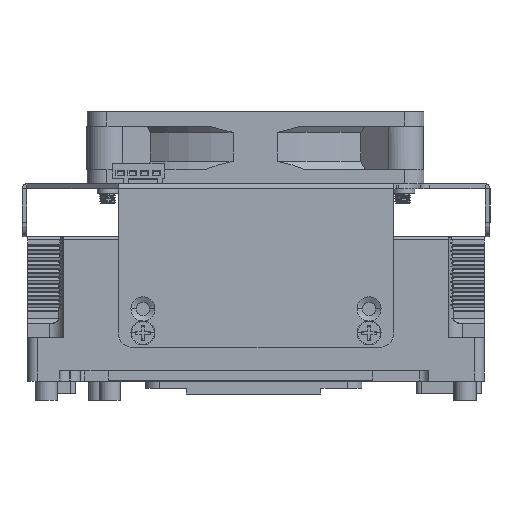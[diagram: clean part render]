
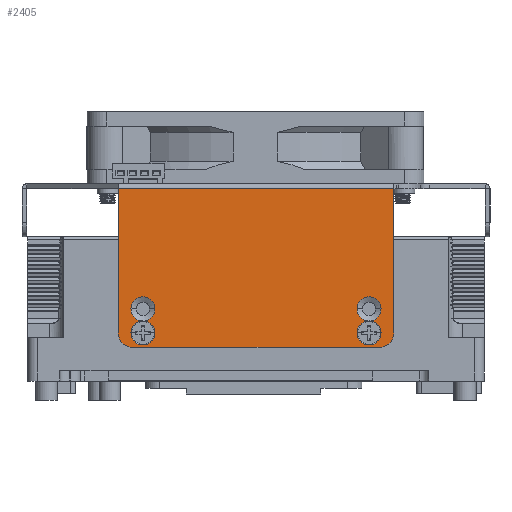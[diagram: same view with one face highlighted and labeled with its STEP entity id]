
A CAD part, front view. The second image highlights one B-rep face of the part: STEP entity #2405.
In plain terms, the highlighted planar face has unit normal (0, -1, 0) as drawn and (0, 0, 1) by its records, which use the part's own axes.
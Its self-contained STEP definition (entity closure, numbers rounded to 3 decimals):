
#394=DIRECTION('',(-1.,0.,0.));
#395=VECTOR('',#394,57.3);
#396=CARTESIAN_POINT('',(28.65,-1.,48.65));
#397=LINE('',#396,#395);
#423=CARTESIAN_POINT('',(25.65,-31.,48.65));
#424=DIRECTION('',(0.,0.,-1.));
#425=DIRECTION('',(1.,0.,0.));
#426=AXIS2_PLACEMENT_3D('',#423,#424,#425);
#428=DIRECTION('',(-1.,0.,0.));
#429=VECTOR('',#428,51.3);
#430=CARTESIAN_POINT('',(25.65,-34.,48.65));
#431=LINE('',#430,#429);
#432=CARTESIAN_POINT('',(-25.65,-31.,48.65));
#433=DIRECTION('',(0.,0.,-1.));
#434=DIRECTION('',(0.,-1.,0.));
#435=AXIS2_PLACEMENT_3D('',#432,#433,#434);
#437=DIRECTION('',(0.,-1.,0.));
#438=VECTOR('',#437,30.);
#439=CARTESIAN_POINT('',(28.65,-1.,48.65));
#440=LINE('',#439,#438);
#441=CARTESIAN_POINT('',(-23.5,-31.,48.65));
#442=DIRECTION('',(0.,0.,1.));
#443=DIRECTION('',(0.,1.,0.));
#444=AXIS2_PLACEMENT_3D('',#441,#442,#443);
#446=CARTESIAN_POINT('',(-23.5,-31.,48.65));
#447=DIRECTION('',(0.,0.,1.));
#448=DIRECTION('',(-1.,0.,0.));
#449=AXIS2_PLACEMENT_3D('',#446,#447,#448);
#451=CARTESIAN_POINT('',(-23.5,-31.,48.65));
#452=DIRECTION('',(0.,0.,1.));
#453=DIRECTION('',(0.,-1.,0.));
#454=AXIS2_PLACEMENT_3D('',#451,#452,#453);
#456=CARTESIAN_POINT('',(-23.5,-31.,48.65));
#457=DIRECTION('',(0.,0.,1.));
#458=DIRECTION('',(1.,0.,0.));
#459=AXIS2_PLACEMENT_3D('',#456,#457,#458);
#461=CARTESIAN_POINT('',(-23.5,-26.,48.65));
#462=DIRECTION('',(0.,0.,1.));
#463=DIRECTION('',(0.,-1.,0.));
#464=AXIS2_PLACEMENT_3D('',#461,#462,#463);
#466=CARTESIAN_POINT('',(-23.5,-26.,48.65));
#467=DIRECTION('',(0.,0.,1.));
#468=DIRECTION('',(1.,0.,0.));
#469=AXIS2_PLACEMENT_3D('',#466,#467,#468);
#471=CARTESIAN_POINT('',(-23.5,-26.,48.65));
#472=DIRECTION('',(0.,0.,1.));
#473=DIRECTION('',(0.,1.,0.));
#474=AXIS2_PLACEMENT_3D('',#471,#472,#473);
#476=CARTESIAN_POINT('',(-23.5,-26.,48.65));
#477=DIRECTION('',(0.,0.,1.));
#478=DIRECTION('',(-1.,0.,0.));
#479=AXIS2_PLACEMENT_3D('',#476,#477,#478);
#481=CARTESIAN_POINT('',(23.5,-31.,48.65));
#482=DIRECTION('',(0.,0.,1.));
#483=DIRECTION('',(0.,1.,0.));
#484=AXIS2_PLACEMENT_3D('',#481,#482,#483);
#486=CARTESIAN_POINT('',(23.5,-31.,48.65));
#487=DIRECTION('',(0.,0.,1.));
#488=DIRECTION('',(-1.,0.,0.));
#489=AXIS2_PLACEMENT_3D('',#486,#487,#488);
#491=CARTESIAN_POINT('',(23.5,-31.,48.65));
#492=DIRECTION('',(0.,0.,1.));
#493=DIRECTION('',(0.,-1.,0.));
#494=AXIS2_PLACEMENT_3D('',#491,#492,#493);
#496=CARTESIAN_POINT('',(23.5,-31.,48.65));
#497=DIRECTION('',(0.,0.,1.));
#498=DIRECTION('',(1.,0.,0.));
#499=AXIS2_PLACEMENT_3D('',#496,#497,#498);
#501=CARTESIAN_POINT('',(23.5,-26.,48.65));
#502=DIRECTION('',(0.,0.,1.));
#503=DIRECTION('',(0.,-1.,0.));
#504=AXIS2_PLACEMENT_3D('',#501,#502,#503);
#506=CARTESIAN_POINT('',(23.5,-26.,48.65));
#507=DIRECTION('',(0.,0.,1.));
#508=DIRECTION('',(1.,0.,0.));
#509=AXIS2_PLACEMENT_3D('',#506,#507,#508);
#511=CARTESIAN_POINT('',(23.5,-26.,48.65));
#512=DIRECTION('',(0.,0.,1.));
#513=DIRECTION('',(0.,1.,0.));
#514=AXIS2_PLACEMENT_3D('',#511,#512,#513);
#516=CARTESIAN_POINT('',(23.5,-26.,48.65));
#517=DIRECTION('',(0.,0.,1.));
#518=DIRECTION('',(-1.,0.,0.));
#519=AXIS2_PLACEMENT_3D('',#516,#517,#518);
#579=DIRECTION('',(0.,-1.,0.));
#580=VECTOR('',#579,30.);
#581=CARTESIAN_POINT('',(-28.65,-1.,48.65));
#582=LINE('',#581,#580);
#1681=CARTESIAN_POINT('',(-28.65,-1.,48.65));
#1682=VERTEX_POINT('',#1681);
#1683=CARTESIAN_POINT('',(28.65,-1.,48.65));
#1684=VERTEX_POINT('',#1683);
#1685=CARTESIAN_POINT('',(28.65,-31.,48.65));
#1687=VERTEX_POINT('',#1685);
#1689=CARTESIAN_POINT('',(25.65,-34.,48.65));
#1690=VERTEX_POINT('',#1689);
#1693=CARTESIAN_POINT('',(-25.65,-34.,48.65));
#1694=VERTEX_POINT('',#1693);
#1695=CARTESIAN_POINT('',(-28.65,-31.,48.65));
#1696=VERTEX_POINT('',#1695);
#1697=CARTESIAN_POINT('',(-23.5,-28.5,48.65));
#1698=CARTESIAN_POINT('',(-26.,-31.,48.65));
#1699=VERTEX_POINT('',#1697);
#1700=VERTEX_POINT('',#1698);
#1701=CARTESIAN_POINT('',(-23.5,-33.5,48.65));
#1702=VERTEX_POINT('',#1701);
#1703=CARTESIAN_POINT('',(-21.,-31.,48.65));
#1704=VERTEX_POINT('',#1703);
#1705=CARTESIAN_POINT('',(-21.,-26.,48.65));
#1706=VERTEX_POINT('',#1705);
#1707=CARTESIAN_POINT('',(-23.5,-23.5,48.65));
#1708=VERTEX_POINT('',#1707);
#1709=CARTESIAN_POINT('',(-26.,-26.,48.65));
#1710=VERTEX_POINT('',#1709);
#1711=CARTESIAN_POINT('',(23.5,-28.5,48.65));
#1712=CARTESIAN_POINT('',(21.,-31.,48.65));
#1713=VERTEX_POINT('',#1711);
#1714=VERTEX_POINT('',#1712);
#1715=CARTESIAN_POINT('',(23.5,-33.5,48.65));
#1716=VERTEX_POINT('',#1715);
#1717=CARTESIAN_POINT('',(26.,-31.,48.65));
#1718=VERTEX_POINT('',#1717);
#1719=CARTESIAN_POINT('',(26.,-26.,48.65));
#1720=VERTEX_POINT('',#1719);
#1721=CARTESIAN_POINT('',(23.5,-23.5,48.65));
#1722=VERTEX_POINT('',#1721);
#1723=CARTESIAN_POINT('',(21.,-26.,48.65));
#1724=VERTEX_POINT('',#1723);
#2353=CARTESIAN_POINT('',(48.65,0.,48.65));
#2354=DIRECTION('',(0.,0.,-1.));
#2355=DIRECTION('',(1.,0.,0.));
#2356=AXIS2_PLACEMENT_3D('',#2353,#2354,#2355);
#2357=PLANE('',#2356);
#2358=ORIENTED_EDGE('',*,*,#2343,.T.);
#2360=ORIENTED_EDGE('',*,*,#2359,.T.);
#2362=ORIENTED_EDGE('',*,*,#2361,.T.);
#2364=ORIENTED_EDGE('',*,*,#2363,.F.);
#2365=ORIENTED_EDGE('',*,*,#2305,.F.);
#2366=ORIENTED_EDGE('',*,*,#2330,.T.);
#2367=EDGE_LOOP('',(#2358,#2360,#2362,#2364,#2365,#2366));
#2368=FACE_OUTER_BOUND('',#2367,.F.);
#2370=ORIENTED_EDGE('',*,*,#2369,.T.);
#2372=ORIENTED_EDGE('',*,*,#2371,.T.);
#2374=ORIENTED_EDGE('',*,*,#2373,.T.);
#2376=ORIENTED_EDGE('',*,*,#2375,.T.);
#2378=ORIENTED_EDGE('',*,*,#2377,.T.);
#2380=ORIENTED_EDGE('',*,*,#2379,.T.);
#2382=ORIENTED_EDGE('',*,*,#2381,.T.);
#2384=ORIENTED_EDGE('',*,*,#2383,.T.);
#2385=EDGE_LOOP('',(#2370,#2372,#2374,#2376,#2378,#2380,#2382,#2384));
#2386=FACE_BOUND('',#2385,.F.);
#2388=ORIENTED_EDGE('',*,*,#2387,.T.);
#2390=ORIENTED_EDGE('',*,*,#2389,.T.);
#2392=ORIENTED_EDGE('',*,*,#2391,.T.);
#2394=ORIENTED_EDGE('',*,*,#2393,.T.);
#2396=ORIENTED_EDGE('',*,*,#2395,.T.);
#2398=ORIENTED_EDGE('',*,*,#2397,.T.);
#2400=ORIENTED_EDGE('',*,*,#2399,.T.);
#2402=ORIENTED_EDGE('',*,*,#2401,.T.);
#2403=EDGE_LOOP('',(#2388,#2390,#2392,#2394,#2396,#2398,#2400,#2402));
#2404=FACE_BOUND('',#2403,.F.);
#2405=ADVANCED_FACE('',(#2368,#2386,#2404),#2357,.F.);
#427=CIRCLE('',#426,3.);
#436=CIRCLE('',#435,3.);
#445=CIRCLE('',#444,2.5);
#450=CIRCLE('',#449,2.5);
#455=CIRCLE('',#454,2.5);
#460=CIRCLE('',#459,2.5);
#465=CIRCLE('',#464,2.5);
#470=CIRCLE('',#469,2.5);
#475=CIRCLE('',#474,2.5);
#480=CIRCLE('',#479,2.5);
#485=CIRCLE('',#484,2.5);
#490=CIRCLE('',#489,2.5);
#495=CIRCLE('',#494,2.5);
#500=CIRCLE('',#499,2.5);
#505=CIRCLE('',#504,2.5);
#510=CIRCLE('',#509,2.5);
#515=CIRCLE('',#514,2.5);
#520=CIRCLE('',#519,2.5);
#2305=EDGE_CURVE('',#1684,#1682,#397,.T.);
#2330=EDGE_CURVE('',#1684,#1687,#440,.T.);
#2343=EDGE_CURVE('',#1687,#1690,#427,.T.);
#2359=EDGE_CURVE('',#1690,#1694,#431,.T.);
#2361=EDGE_CURVE('',#1694,#1696,#436,.T.);
#2363=EDGE_CURVE('',#1682,#1696,#582,.T.);
#2369=EDGE_CURVE('',#1699,#1700,#445,.T.);
#2371=EDGE_CURVE('',#1700,#1702,#450,.T.);
#2373=EDGE_CURVE('',#1702,#1704,#455,.T.);
#2375=EDGE_CURVE('',#1704,#1699,#460,.T.);
#2377=EDGE_CURVE('',#1699,#1706,#465,.T.);
#2379=EDGE_CURVE('',#1706,#1708,#470,.T.);
#2381=EDGE_CURVE('',#1708,#1710,#475,.T.);
#2383=EDGE_CURVE('',#1710,#1699,#480,.T.);
#2387=EDGE_CURVE('',#1713,#1714,#485,.T.);
#2389=EDGE_CURVE('',#1714,#1716,#490,.T.);
#2391=EDGE_CURVE('',#1716,#1718,#495,.T.);
#2393=EDGE_CURVE('',#1718,#1713,#500,.T.);
#2395=EDGE_CURVE('',#1713,#1720,#505,.T.);
#2397=EDGE_CURVE('',#1720,#1722,#510,.T.);
#2399=EDGE_CURVE('',#1722,#1724,#515,.T.);
#2401=EDGE_CURVE('',#1724,#1713,#520,.T.);
